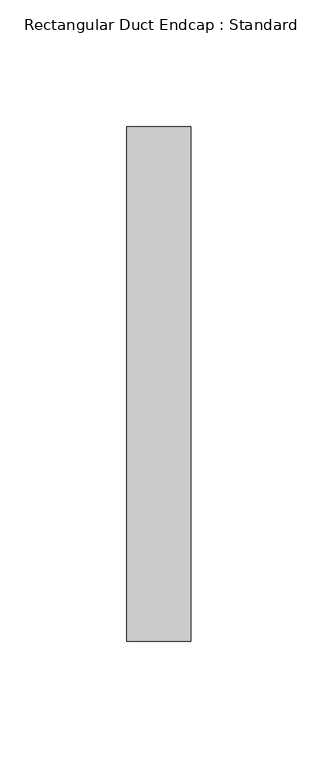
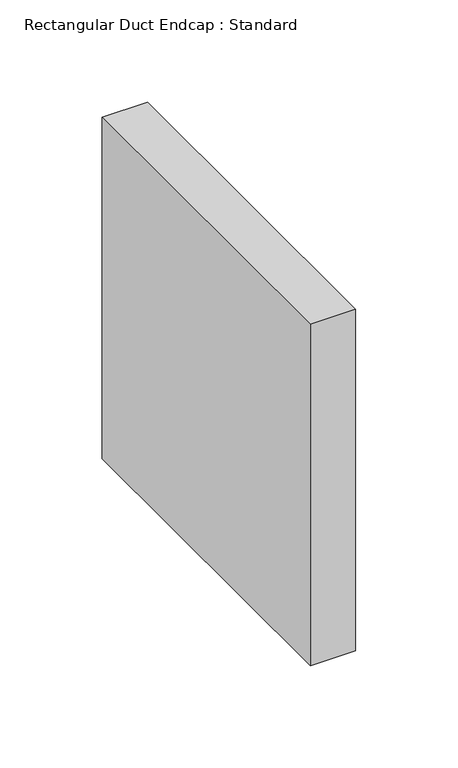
"""IFC4 building model written with IfcOpenShell, lengths in millimetres: duct fitting geometry, Rectangular Duct Endcap : Standard."""

from ifc_helpers import new_model, si_unit, frame, origin, place, context, project, spatial, polyline, outline, extrude, source, transform, mapped, element, save


def rectangular_duct_endcap_standard_7cdf2de4(model_context):
    return source(origin(), model_context, "Body", "SweptSolid", [
        extrude(outline(polyline([(0.0, -101.6), (0.0, 101.6), (25.4, 101.6), (25.4, -101.6), (0.0, -101.6)])), frame((0.0, 0.0, -101.6), z_axis=(0.0, 0.0, 1.0), x_axis=(1.0, 0.0, 0.0)), (0.0, 0.0, 1.0), 203.2),
        extrude(outline(polyline([(0.0, -101.6), (0.0, 101.6), (25.4, 101.6), (25.4, -101.6), (0.0, -101.6)])), frame((0.0, 0.0, -101.6), z_axis=(0.0, 0.0, 1.0), x_axis=(1.0, 0.0, 0.0)), (0.0, 0.0, 1.0), 203.2),
        extrude(outline(polyline([(0.0, -101.6), (0.0, 101.6), (25.4, 101.6), (25.4, -101.6), (0.0, -101.6)])), frame((0.0, 0.0, -101.6), z_axis=(0.0, 0.0, 1.0), x_axis=(1.0, 0.0, 0.0)), (0.0, 0.0, 1.0), 203.2),
    ])


if __name__ == "__main__":
    model = new_model("IFC4")
    model_context = context("Model", 3, world=origin())
    ifc_project = project(units=[si_unit("LENGTHUNIT", "METRE", prefix="MILLI")], contexts=[model_context])
    site = spatial("IfcSite", under=ifc_project)
    building = spatial("IfcBuilding", under=site)
    placement = place(None, origin())
    rectangular_duct_endcap_standard_shape = rectangular_duct_endcap_standard_7cdf2de4(model_context)
    element("IfcDuctFitting", 1, ObjectType="Rectangular Duct Endcap : Standard", at=placement, inside=building, context=model_context, shape_type="MappedRepresentation", body=[
        mapped(rectangular_duct_endcap_standard_shape, transform((0.0, 0.0, 0.0), x_axis=(1.0, 0.0, 0.0), y_axis=(0.0, 1.0, 0.0), z_axis=(0.0, 0.0, 1.0))),
    ])
    save(model, "model.ifc")
